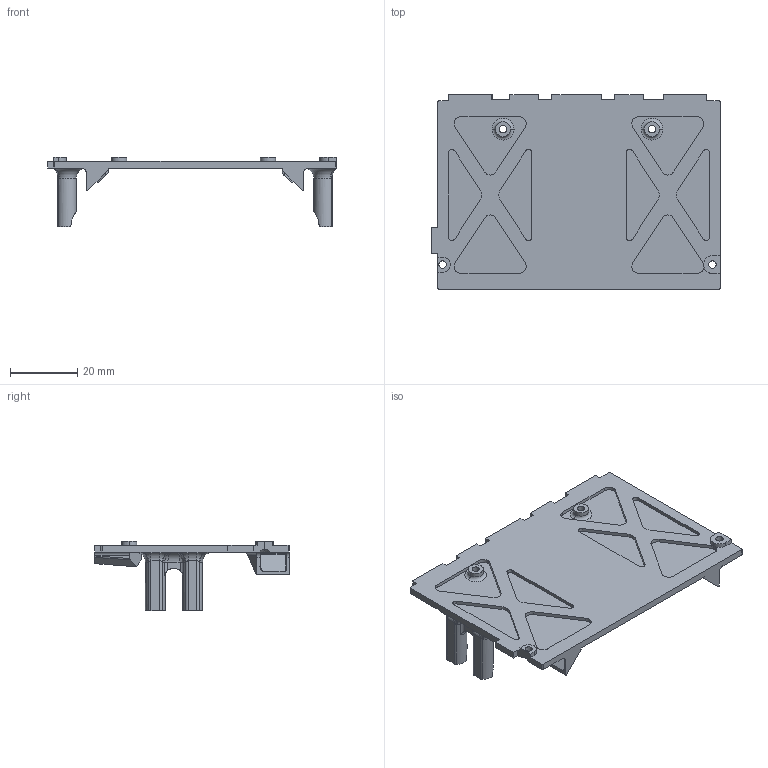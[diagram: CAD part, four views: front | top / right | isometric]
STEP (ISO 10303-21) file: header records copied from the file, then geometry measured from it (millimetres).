
FILE_DESCRIPTION (( 'STEP AP203' ), '1' );
FILE_NAME ('Edge2_Back_RevC.STEP');
FILE_SCHEMA (( 'CONFIG_CONTROL_DESIGN' ));
Length unit declared in the file: millimetre
Products named in the file (1): Edge2_Back_RevC
Bounding box: 85.7 x 57.7 x 20.76 mm (x, y, z)
Volume: 10533.6 mm3; surface area: 13331.4 mm2
Topology: 1 solids, 1 shells, 303 faces, 799 edges, 502 vertices
Faces by surface type: cylinder 128, plane 119, bspline 24, torus 18, cone 8, sphere 6
Entity records: 10497 total; most frequent: CARTESIAN_POINT 3145, ORIENTED_EDGE 1574, DIRECTION 1474, EDGE_CURVE 787, AXIS2_PLACEMENT_3D 529, VERTEX_POINT 502, VECTOR 416, LINE 416
